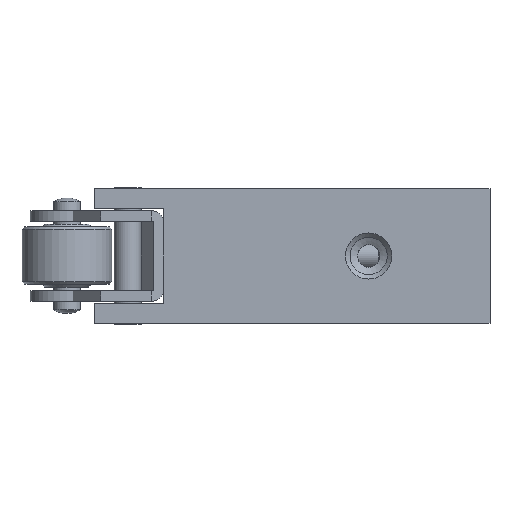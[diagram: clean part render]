
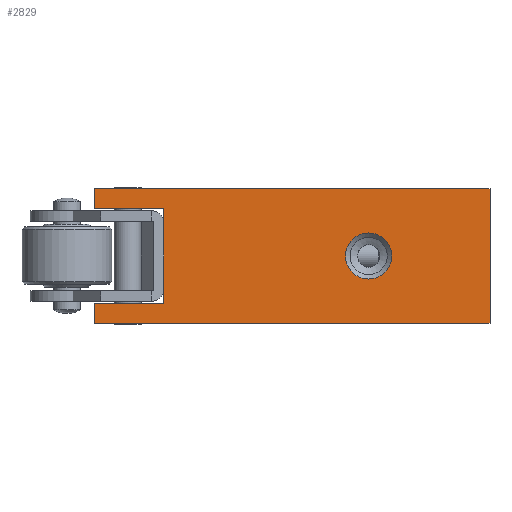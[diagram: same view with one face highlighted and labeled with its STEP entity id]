
A CAD part, front view. The second image highlights one B-rep face of the part: STEP entity #2829.
In plain terms, the highlighted planar face has unit normal (0, -1, 0).
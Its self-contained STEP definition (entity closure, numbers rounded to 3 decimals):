
#165=LINE('',#5135,#350);
#172=LINE('',#5151,#357);
#175=LINE('',#5158,#360);
#189=LINE('',#5380,#374);
#190=LINE('',#5382,#375);
#191=LINE('',#5384,#376);
#192=LINE('',#5386,#377);
#193=LINE('',#5388,#378);
#350=VECTOR('',#4261,1000.);
#357=VECTOR('',#4272,1000.);
#360=VECTOR('',#4279,1000.);
#374=VECTOR('',#4345,1000.);
#375=VECTOR('',#4346,1000.);
#376=VECTOR('',#4347,1000.);
#377=VECTOR('',#4348,1000.);
#378=VECTOR('',#4349,1000.);
#533=PLANE('',#3972);
#785=ORIENTED_EDGE('',*,*,#1522,.T.);
#786=ORIENTED_EDGE('',*,*,#1475,.T.);
#787=ORIENTED_EDGE('',*,*,#1471,.T.);
#788=ORIENTED_EDGE('',*,*,#1463,.F.);
#789=ORIENTED_EDGE('',*,*,#1523,.F.);
#790=ORIENTED_EDGE('',*,*,#1524,.F.);
#791=ORIENTED_EDGE('',*,*,#1525,.F.);
#792=ORIENTED_EDGE('',*,*,#1526,.T.);
#793=ORIENTED_EDGE('',*,*,#1527,.F.);
#1463=EDGE_CURVE('',#1844,#1845,#165,.T.);
#1471=EDGE_CURVE('',#1849,#1845,#172,.T.);
#1475=EDGE_CURVE('',#1853,#1849,#175,.T.);
#1522=EDGE_CURVE('',#1899,#1899,#2109,.F.);
#1523=EDGE_CURVE('',#1900,#1844,#189,.T.);
#1524=EDGE_CURVE('',#1901,#1900,#190,.T.);
#1525=EDGE_CURVE('',#1902,#1901,#191,.T.);
#1526=EDGE_CURVE('',#1902,#1903,#192,.T.);
#1527=EDGE_CURVE('',#1853,#1903,#193,.T.);
#1844=VERTEX_POINT('',#5136);
#1845=VERTEX_POINT('',#5137);
#1849=VERTEX_POINT('',#5148);
#1853=VERTEX_POINT('',#5159);
#1899=VERTEX_POINT('',#5379);
#1900=VERTEX_POINT('',#5381);
#1901=VERTEX_POINT('',#5383);
#1902=VERTEX_POINT('',#5385);
#1903=VERTEX_POINT('',#5387);
#2109=CIRCLE('',#3973,2.567);
#2245=EDGE_LOOP('',(#785));
#2246=EDGE_LOOP('',(#786,#787,#788,#789,#790,#791,#792,#793));
#2543=FACE_BOUND('',#2245,.T.);
#2544=FACE_BOUND('',#2246,.T.);
#2829=ADVANCED_FACE('',(#2543,#2544),#533,.T.);
#3972=AXIS2_PLACEMENT_3D('',#5377,#4341,#4342);
#3973=AXIS2_PLACEMENT_3D('',#5378,#4343,#4344);
#4261=DIRECTION('',(1.,0.,0.));
#4272=DIRECTION('',(0.,0.,1.));
#4279=DIRECTION('',(1.,0.,0.));
#4341=DIRECTION('',(0.,-1.,0.));
#4342=DIRECTION('',(1.,0.,0.));
#4343=DIRECTION('',(0.,-1.,0.));
#4344=DIRECTION('',(0.,0.,-1.));
#4345=DIRECTION('',(0.,0.,1.));
#4346=DIRECTION('',(-1.,0.,0.));
#4347=DIRECTION('',(0.,0.,1.));
#4348=DIRECTION('',(-1.,0.,0.));
#4349=DIRECTION('',(0.,0.,1.));
#5135=CARTESIAN_POINT('',(-44.,-12.5,7.5));
#5136=CARTESIAN_POINT('',(-44.,-12.5,7.5));
#5137=CARTESIAN_POINT('',(0.,-12.5,7.5));
#5148=CARTESIAN_POINT('',(0.,-12.5,-7.5));
#5151=CARTESIAN_POINT('',(0.,-12.5,-7.5));
#5158=CARTESIAN_POINT('',(-44.,-12.5,-7.5));
#5159=CARTESIAN_POINT('',(-44.,-12.5,-7.5));
#5377=CARTESIAN_POINT('',(-44.,-12.5,-7.5));
#5378=CARTESIAN_POINT('',(-13.5,-12.5,0.));
#5379=CARTESIAN_POINT('',(-13.5,-12.5,-2.567));
#5380=CARTESIAN_POINT('',(-44.,-12.5,5.25));
#5381=CARTESIAN_POINT('',(-44.,-12.5,5.25));
#5382=CARTESIAN_POINT('',(-35.2,-12.5,5.25));
#5383=CARTESIAN_POINT('',(-36.297,-12.5,5.25));
#5384=CARTESIAN_POINT('',(-36.297,-12.5,-5.25));
#5385=CARTESIAN_POINT('',(-36.297,-12.5,-5.25));
#5386=CARTESIAN_POINT('',(-35.2,-12.5,-5.25));
#5387=CARTESIAN_POINT('',(-44.,-12.5,-5.25));
#5388=CARTESIAN_POINT('',(-44.,-12.5,-7.5));
